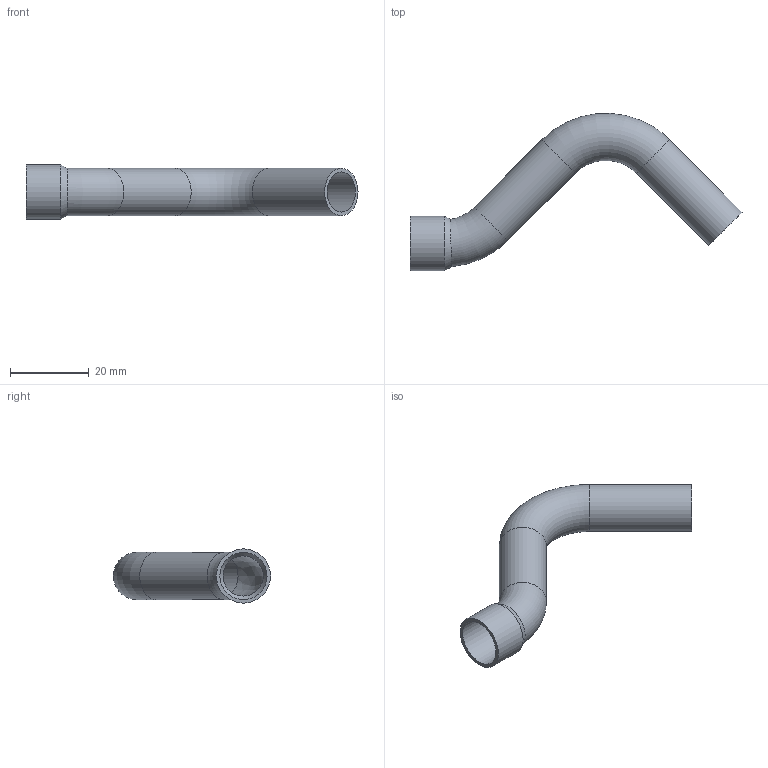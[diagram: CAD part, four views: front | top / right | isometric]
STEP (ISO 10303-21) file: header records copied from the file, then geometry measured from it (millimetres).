
FILE_DESCRIPTION((''),'2;1');
FILE_NAME('G:\SANHA-ESSEN\Entwicklung\Management\__STEP-Dateien_alle Serien\Serie 5000\5130\5130_egal\508612(0).stp','2016-05-09T11:42:50',('lohse'),(''),'Autodesk Inventor 2009','Autodesk Inventor 2009','');
FILE_SCHEMA(('AUTOMOTIVE_DESIGN { 1 0 10303 214 1 1 1 1 }'));
Length unit declared in the file: millimetre
Products named in the file (1): 508612(0)
Bounding box: 84.43 x 39.97 x 13.8 mm (x, y, z)
Volume: 3125.8 mm3; surface area: 7093 mm2
Topology: 1 solids, 1 shells, 14 faces, 30 edges, 18 vertices
Faces by surface type: cylinder 6, torus 2, bspline 2, cone 2, plane 2
Full cylindrical faces by diameter (mm): 10.2 x2, 12 x3, 13.8 x1
Entity records: 460 total; most frequent: CARTESIAN_POINT 193, DIRECTION 50, ORIENTED_EDGE 32, EDGE_LOOP 28, AXIS2_PLACEMENT_3D 25, VERTEX_POINT 16, EDGE_CURVE 16, FACE_OUTER_BOUND 14
